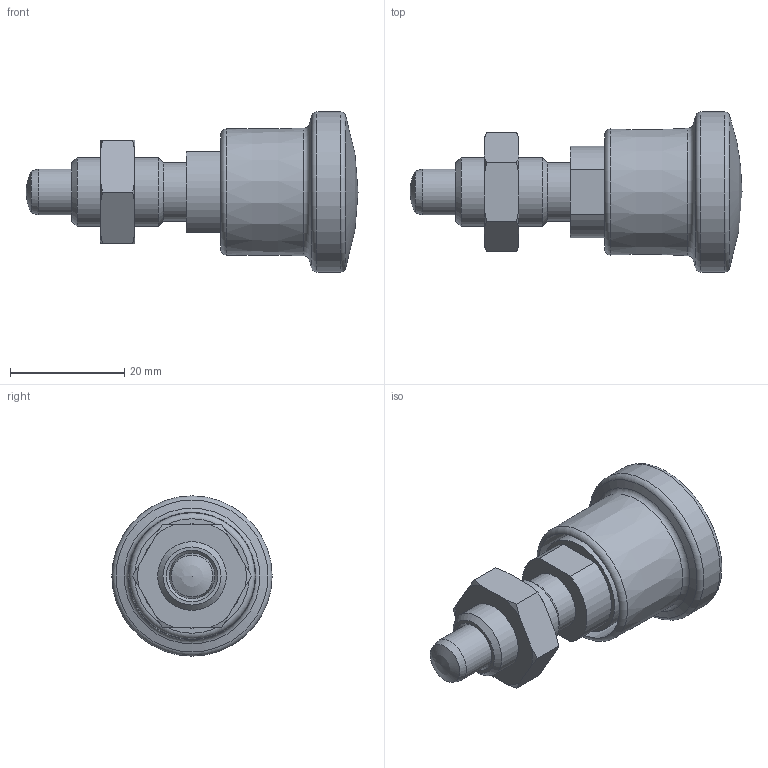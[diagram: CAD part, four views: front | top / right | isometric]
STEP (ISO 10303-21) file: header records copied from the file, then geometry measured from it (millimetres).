
FILE_DESCRIPTION( ( 'STEP AP203' ), '1' );
FILE_NAME( 'C:/Temp/Ganter_Step_05_03_2020/data/3_1/gn816/gn_816_ak/Locking plunger GN 816-8-M12x1,5-AK (deactivated).stp', '2020-03-12T08:55:38', ( 'License CC BY-ND 4.0' ), ( 'CADENAS' ), ' ', 'PARTsolutions', ' ' );
FILE_SCHEMA( ( 'CONFIG_CONTROL_DESIGN' ) );
Length unit declared in the file: millimetre
Products named in the file (4): Locking plunger GN 816-8-M12x1,5-AK (deactivated); _GN 816-8-M12x1,5-A (0)-a2; _GN 816-8-M12x1,5-A-a1; _Lock nut ISO 8675 GN 816-8-M12x1,5-AK
Assembly tree (3 placements, depth 2):
  Locking plunger GN 816-8-M12x1,5-AK (deactivated)
    _GN 816-8-M12x1,5-A (0)-a2
    _GN 816-8-M12x1,5-A-a1
    _Lock nut ISO 8675 GN 816-8-M12x1,5-AK
Bounding box: 58 x 28 x 28 mm (x, y, z)
Volume: 12578.4 mm3; surface area: 10016.5 mm2
Topology: 3 solids, 3 shells, 74 faces, 162 edges, 102 vertices
Faces by surface type: cone 26, plane 23, cylinder 17, torus 6, sphere 2
Full cylindrical faces by diameter (mm): 2.9 x2, 3 x2, 5.9 x1, 6 x1, 8 x2, 10.2 x1, 10.376 x1, 11.1 x1, 12 x1, 18.2 x1, 20.017 x1, 28 x1
Entity records: 2243 total; most frequent: CARTESIAN_POINT 664, DIRECTION 304, ORIENTED_EDGE 234, AXIS2_PLACEMENT_3D 139, EDGE_LOOP 128, EDGE_CURVE 117, VERTEX_POINT 97, FACE_OUTER_BOUND 95
